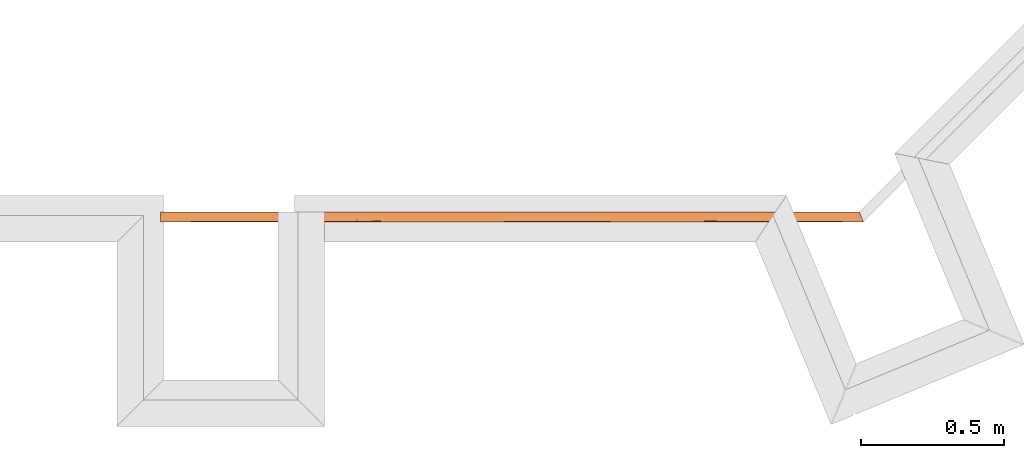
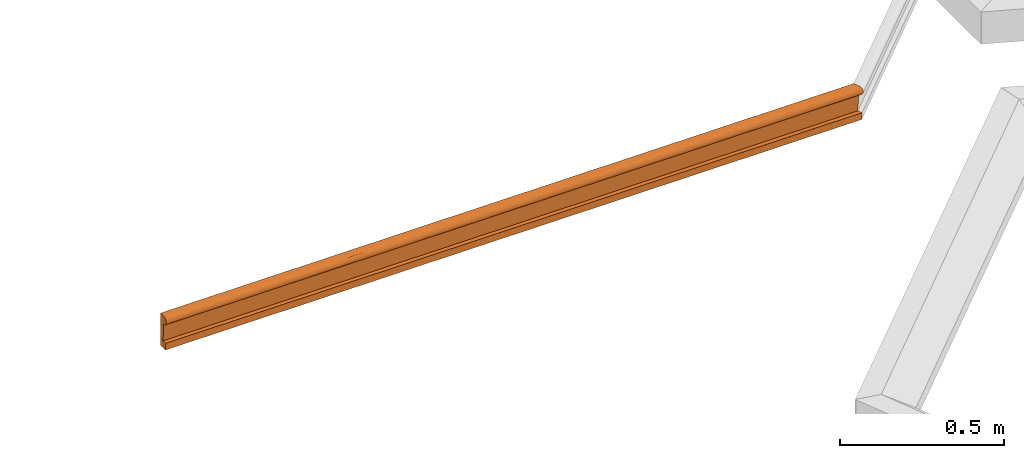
# One storey, part 6 of 9: 1 proxy.
"""IFC2X3 building model written with IfcOpenShell, lengths in metres."""

from ifc_helpers import new_model, entity, si_unit, converted_unit, derived_unit, direction, frame, origin, place, context, subcontext, project, spatial, faceted_brep, type_object, element, save


model = new_model("IFC2X3")

# Units and contexts
model_context = context("Model", 3, precision=1e-05, world=origin(), true_north=direction((6.12303176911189e-17, 1.0)))
plan_context = context("Plan", 3, precision=1e-05, world=origin(), true_north=direction((6.12303176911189e-17, 1.0)))
body_context = subcontext(model_context, "Body", "Model", "MODEL_VIEW")
ifc_project = project(units=[si_unit("LENGTHUNIT", "METRE"), si_unit("AREAUNIT", "SQUARE_METRE"), si_unit("VOLUMEUNIT", "CUBIC_METRE"), converted_unit("PLANEANGLEUNIT", "DEGREE", entity("IfcRatioMeasure", 0.0174532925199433), si_unit("PLANEANGLEUNIT", "RADIAN"), dimensions=[0, 0, 0, 0, 0, 0, 0]), si_unit("MASSUNIT", "GRAM", prefix="KILO"), derived_unit("MASSDENSITYUNIT", [(si_unit("MASSUNIT", "GRAM", prefix="KILO"), 1), (si_unit("LENGTHUNIT", "METRE"), -3)]), derived_unit("MOMENTOFINERTIAUNIT", [(si_unit("LENGTHUNIT", "METRE"), 4)]), si_unit("TIMEUNIT", "SECOND"), si_unit("FREQUENCYUNIT", "HERTZ"), si_unit("THERMODYNAMICTEMPERATUREUNIT", "DEGREE_CELSIUS"), derived_unit("THERMALTRANSMITTANCEUNIT", [(si_unit("MASSUNIT", "GRAM", prefix="KILO"), 1), (si_unit("THERMODYNAMICTEMPERATUREUNIT", "KELVIN"), -1), (si_unit("TIMEUNIT", "SECOND"), -3)]), derived_unit("VOLUMETRICFLOWRATEUNIT", [(si_unit("LENGTHUNIT", "METRE"), 3), (si_unit("TIMEUNIT", "SECOND"), -1)]), derived_unit("MASSFLOWRATEUNIT", [(si_unit("MASSUNIT", "GRAM", prefix="KILO"), 1), (si_unit("TIMEUNIT", "SECOND"), -1)]), derived_unit("ROTATIONALFREQUENCYUNIT", [(si_unit("TIMEUNIT", "SECOND"), -1)]), si_unit("ELECTRICCURRENTUNIT", "AMPERE"), si_unit("ELECTRICVOLTAGEUNIT", "VOLT"), si_unit("POWERUNIT", "WATT"), si_unit("FORCEUNIT", "NEWTON", prefix="KILO"), si_unit("ILLUMINANCEUNIT", "LUX"), si_unit("LUMINOUSFLUXUNIT", "LUMEN"), si_unit("LUMINOUSINTENSITYUNIT", "CANDELA"), derived_unit("USERDEFINED", [(si_unit("MASSUNIT", "GRAM", prefix="KILO"), -1), (si_unit("LENGTHUNIT", "METRE"), -2), (si_unit("TIMEUNIT", "SECOND"), 3), (si_unit("LUMINOUSFLUXUNIT", "LUMEN"), 1)]), derived_unit("SOUNDPOWERUNIT", [(si_unit("MASSUNIT", "GRAM", prefix="KILO"), 1), (si_unit("LENGTHUNIT", "METRE"), 2), (si_unit("TIMEUNIT", "SECOND"), -3)]), derived_unit("SOUNDPRESSUREUNIT", [(si_unit("MASSUNIT", "GRAM", prefix="KILO"), 1), (si_unit("LENGTHUNIT", "METRE"), -1), (si_unit("TIMEUNIT", "SECOND"), -2)]), derived_unit("LINEARVELOCITYUNIT", [(si_unit("LENGTHUNIT", "METRE"), 1), (si_unit("TIMEUNIT", "SECOND"), -1)]), si_unit("PRESSUREUNIT", "PASCAL"), derived_unit("USERDEFINED", [(si_unit("LENGTHUNIT", "METRE"), -2), (si_unit("MASSUNIT", "GRAM", prefix="KILO"), 1), (si_unit("TIMEUNIT", "SECOND"), -2)]), derived_unit("LINEARFORCEUNIT", [(si_unit("MASSUNIT", "GRAM", prefix="KILO"), 1), (si_unit("LENGTHUNIT", "METRE"), 1), (si_unit("TIMEUNIT", "SECOND"), -2), (si_unit("LENGTHUNIT", "METRE"), -1)]), derived_unit("PLANARFORCEUNIT", [(si_unit("MASSUNIT", "GRAM", prefix="KILO"), 1), (si_unit("LENGTHUNIT", "METRE"), 1), (si_unit("TIMEUNIT", "SECOND"), -2), (si_unit("LENGTHUNIT", "METRE"), -2)])], contexts=[model_context, plan_context])

# Site, building, storey
site_placement = place(None, frame((-11.0823275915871, 23.8300534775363, 0.0)))
site = spatial("IfcSite", under=ifc_project, at=site_placement, Name="Default", CompositionType="ELEMENT")
building_placement = place(site_placement, origin())
building = spatial("IfcBuilding", under=site, at=building_placement, Name="Englische Kirche", CompositionType="ELEMENT")
storey_placement = place(building_placement, frame((0.0, 0.0, -3.07499999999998)))
storey = spatial("IfcBuildingStorey", under=building, at=storey_placement, Name="Ebene -1 Basement Phase 6", CompositionType="ELEMENT", Elevation=-3.07499999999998)

# Proxy
building_element_proxy_type = type_object("IfcBuildingElementProxyType", Name="Profilierte Wand:moulding1-Dado brick Stage 2", PredefinedType="NOTDEFINED")
proxy_placement = place(storey_placement, frame((22.6756291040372, 9.91654569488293, 4.32499999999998)))
element("IfcBuildingElementProxy", 1, at=proxy_placement, inside=storey, type_object=building_element_proxy_type, Name="Profilierte Wand:moulding1-Dado brick Stage 2", ObjectType="Profilierte Wand:moulding1-Dado brick Stage 2", context=body_context, shape_type="Brep", body=[
    faceted_brep([(0.0, 0.00272117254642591, 0.0991462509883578), (0.0, 0.00171034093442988, 0.102692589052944), (0.0, 0.0015952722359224, 0.106378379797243), (0.0, 0.00238292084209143, 0.109980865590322), (0.0, 0.00402568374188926, 0.113282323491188), (0.0, 0.00642427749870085, 0.11608322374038), (0.0, 0.00943373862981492, 0.11821428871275), (0.0, 0.0128721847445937, 0.119546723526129), (0.0, 0.0165318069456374, 0.12), (0.0, 0.0365318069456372, 0.12), (0.0, 0.0365318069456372, 0.0), (0.0, 0.0065318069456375, 0.0), (0.0, 0.0065318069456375, 0.0249999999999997), (0.0, 0.0215318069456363, 0.0249999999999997), (0.0, 0.0174674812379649, 0.0900292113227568), (0.0, 0.0137867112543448, 0.0902533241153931), (0.0, 0.010271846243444, 0.0913686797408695), (0.0, 0.00713531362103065, 0.0933078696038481), (0.0, 0.00456667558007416, 0.0959536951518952), (2.45761961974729, 0.00272117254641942, 0.0991462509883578), (2.45685518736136, 0.00456667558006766, 0.0959536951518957), (2.45579122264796, 0.00713531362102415, 0.0933078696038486), (2.45449202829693, 0.0102718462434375, 0.0913686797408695), (2.45303612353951, 0.0137867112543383, 0.0902533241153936), (2.45151149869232, 0.0174674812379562, 0.0900292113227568), (2.44982799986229, 0.0215318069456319, 0.0250000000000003), (2.45604120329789, 0.006531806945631, 0.0250000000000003), (2.45604120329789, 0.006531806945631, 0.0), (2.4436147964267, 0.0365318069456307, 0.0), (2.4436147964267, 0.0365318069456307, 0.12), (2.45189906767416, 0.0165318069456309, 0.12), (2.453414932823, 0.0128721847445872, 0.119546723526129), (2.45483918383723, 0.00943373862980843, 0.11821428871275), (2.45608574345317, 0.00642427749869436, 0.11608322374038), (2.45707927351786, 0.00402568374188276, 0.113282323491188), (2.45775972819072, 0.00238292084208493, 0.109980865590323), (2.45808598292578, 0.0015952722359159, 0.106378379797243), (2.45803831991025, 0.00171034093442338, 0.102692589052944), (2.18104567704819, 0.0174674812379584, 0.0900292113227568), (1.91057985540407, 0.0174674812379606, 0.0900292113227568), (1.70340151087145, 0.0174674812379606, 0.0900292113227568), (1.49622316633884, 0.0174674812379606, 0.0900292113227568), (1.28904482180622, 0.0174674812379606, 0.0900292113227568), (1.0818654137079, 0.0174674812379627, 0.0900292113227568), (0.811399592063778, 0.0174674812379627, 0.0900292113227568), (0.540932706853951, 0.0174674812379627, 0.0900292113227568), (0.270465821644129, 0.0174674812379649, 0.0900292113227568), (0.135233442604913, 0.0174674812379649, 0.0900292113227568), (2.22761726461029, 0.00575310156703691, 0.0945683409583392), (2.22793000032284, 0.00153907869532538, 0.1045329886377), (2.28041271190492, 0.00210440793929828, 0.10089510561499), (0.234491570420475, 0.00187797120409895, 0.108203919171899), (0.499225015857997, 0.00192981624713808, 0.108432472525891), (0.396162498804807, 0.00310246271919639, 0.11168226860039), (1.40548483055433, 0.00167870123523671, 0.102905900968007), (1.25979009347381, 0.00276921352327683, 0.0990341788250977), (1.47893047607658, 0.0027787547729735, 0.099012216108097), (2.28756529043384, 0.00353920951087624, 0.0975038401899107), (2.28157856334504, 0.0146971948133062, 0.0901126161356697), (2.18359478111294, 0.0119588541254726, 0.0907140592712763), (0.755333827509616, 0.014026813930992, 0.0902106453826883), (0.175935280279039, 0.00864376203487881, 0.0922415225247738), (0.22180918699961, 0.0057693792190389, 0.0945515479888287), (2.33551744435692, 0.00309891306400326, 0.111675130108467), (0.636571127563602, 0.0018572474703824, 0.101892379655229), (0.466749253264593, 0.00196316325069, 0.101428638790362), (0.579969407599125, 0.00278923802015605, 0.0989881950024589), (2.28246382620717, 0.00512777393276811, 0.114744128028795), (0.177267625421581, 0.00786327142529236, 0.117241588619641), (2.07477324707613, 0.00353140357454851, 0.0975173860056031), (2.10281928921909, 0.00184634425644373, 0.101944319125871), (1.86810532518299, 0.00226256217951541, 0.100375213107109), (0.57458418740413, 0.0128561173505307, 0.0904573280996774), (0.568541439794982, 0.00882815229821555, 0.0921293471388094), (0.34157508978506, 0.0119948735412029, 0.0907025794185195), (1.25618577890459, 0.00542921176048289, 0.115086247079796), (1.28914042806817, 0.00863801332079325, 0.117754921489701), (1.11105147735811, 0.00850749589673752, 0.117673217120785), (0.156711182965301, 0.0119948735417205, 0.090702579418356), (0.202849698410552, 0.0147776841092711, 0.090102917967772), (0.38013285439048, 0.00786327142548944, 0.117241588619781), (0.228012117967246, 0.0111118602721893, 0.118986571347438), (0.175935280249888, 0.00354544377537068, 0.0974930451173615), (0.1293266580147, 0.00210636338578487, 0.100888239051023), (0.228012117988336, 0.00513858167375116, 0.1147567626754), (1.81283111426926, 0.0102971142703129, 0.0913571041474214), (1.79671164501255, 0.00633234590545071, 0.0940013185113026), (1.63938221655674, 0.00893594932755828, 0.0920654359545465), (2.24176879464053, 0.00784238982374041, 0.117226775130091), (2.10288660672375, 0.00168479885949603, 0.107136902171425), (1.97777589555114, 0.00153904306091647, 0.104534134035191), (2.2805090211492, 0.00187678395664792, 0.108198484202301), (1.89588969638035, 0.0119409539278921, 0.119280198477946), (2.11037807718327, 0.0110680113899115, 0.118969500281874), (2.08412401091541, 0.0140262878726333, 0.119789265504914), (2.29623990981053, 0.0110917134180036, 0.118978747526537), (1.79020274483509, 0.0015751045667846, 0.103861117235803), (1.78040160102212, 0.00170867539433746, 0.10729668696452), (1.62218079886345, 0.00154264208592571, 0.105570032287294), (1.35391173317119, 0.012760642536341, 0.119518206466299), (1.15295996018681, 0.0114348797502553, 0.119107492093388), (0.50387073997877, 0.00519676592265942, 0.114824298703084), (0.622084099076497, 0.00315320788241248, 0.111783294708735), (2.24904936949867, 0.0138378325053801, 0.119756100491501), (1.91096367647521, 0.0165318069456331, 0.12), (1.70368345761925, 0.0165318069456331, 0.12), (1.76205573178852, 0.0136643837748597, 0.119723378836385), (1.97458803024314, 0.00859278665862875, 0.0922731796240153), (1.9396472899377, 0.0128478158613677, 0.0904594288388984), (1.05655877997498, 0.00262172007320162, 0.0993866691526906), (1.14240045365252, 0.0041097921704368, 0.0965920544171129), (0.177267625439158, 0.00310246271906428, 0.111682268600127), (1.25625141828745, 0.011234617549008, 0.0909664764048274), (1.46700838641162, 0.00994686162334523, 0.0915226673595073), (1.30424594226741, 0.00857570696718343, 0.0922838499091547), (0.896476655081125, 0.00354544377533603, 0.0974930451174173), (0.663221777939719, 0.00444011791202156, 0.096123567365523), (0.920751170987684, 0.00530395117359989, 0.0950533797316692), (0.178759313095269, 0.00153911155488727, 0.104531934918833), (0.80525074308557, 0.00174420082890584, 0.102484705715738), (0.919097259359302, 0.00156977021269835, 0.106066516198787), (0.735708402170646, 0.00154782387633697, 0.105693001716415), (2.31666521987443, 0.0165318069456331, 0.12), (0.353724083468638, 0.00154350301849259, 0.105592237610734), (1.63609237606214, 0.00613441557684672, 0.0941882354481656), (1.48043468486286, 0.0055764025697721, 0.0947540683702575), (1.51338927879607, 0.00764191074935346, 0.092918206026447), (2.2779286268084, 0.00862494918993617, 0.0922531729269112), (0.328896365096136, 0.0135621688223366, 0.119703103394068), (0.540929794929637, 0.0165318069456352, 0.12), (0.270467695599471, 0.0165318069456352, 0.12), (0.161618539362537, 0.0140094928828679, 0.11978641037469), (1.89538750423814, 0.00813841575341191, 0.11743185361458), (2.08000999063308, 0.00835299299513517, 0.117574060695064), (0.365918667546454, 0.0149711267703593, 0.0900814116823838), (0.343068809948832, 0.00763916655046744, 0.0929202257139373), (0.385907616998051, 0.00346762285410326, 0.0976293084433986), (0.29162777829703, 0.00210636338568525, 0.100888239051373), (1.9835056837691, 0.0033965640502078, 0.112243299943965), (1.95716088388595, 0.0051076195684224, 0.114720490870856), (1.82490482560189, 0.00371504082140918, 0.112792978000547), (2.12146703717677, 0.0146714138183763, 0.0901158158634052), (2.02601265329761, 0.00574321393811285, 0.0945785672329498), (2.12668730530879, 0.00759971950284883, 0.0929493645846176), (0.483855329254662, 0.0118462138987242, 0.119249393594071), (1.06662386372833, 0.00621632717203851, 0.0941100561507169), (1.05328237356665, 0.0105555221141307, 0.0912419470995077), (0.781217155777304, 0.00638117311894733, 0.0939562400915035), (0.61936304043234, 0.00639798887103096, 0.0939408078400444), (2.11946293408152, 0.00600308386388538, 0.115683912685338), (2.17906815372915, 0.00309436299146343, 0.111665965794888), (0.946631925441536, 0.0104403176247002, 0.118707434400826), (1.01145248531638, 0.0134392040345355, 0.11967773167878), (1.600053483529, 0.01321661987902, 0.119629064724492), (1.4940222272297, 0.0100045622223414, 0.118505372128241), (1.70369116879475, 0.0100653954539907, 0.118534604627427), (1.65710728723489, 0.00565899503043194, 0.115333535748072), (1.67895157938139, 0.00395356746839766, 0.11317238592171), (1.8074947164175, 0.00541032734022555, 0.115065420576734), (1.74052066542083, 0.00756933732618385, 0.117028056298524), (1.59477577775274, 0.00751148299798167, 0.116984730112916), (1.18545429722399, 0.0139366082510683, 0.0902262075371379), (0.997017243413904, 0.00169984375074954, 0.10276105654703), (1.12519746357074, 0.00153873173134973, 0.105455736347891), (0.6344463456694, 0.00833620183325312, 0.117563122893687), (0.725097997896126, 0.0121524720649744, 0.11934647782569), (1.00252562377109, 0.00639323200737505, 0.116054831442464), (1.10843823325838, 0.00355162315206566, 0.11251763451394), (1.89437757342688, 0.0023594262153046, 0.109913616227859), (2.05000461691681, 0.00232666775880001, 0.109818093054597), (0.464328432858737, 0.00576937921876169, 0.0945515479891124), (1.69020377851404, 0.00266324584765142, 0.110715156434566), (1.55468611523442, 0.00203369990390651, 0.108847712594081), (1.3993273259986, 0.00174554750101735, 0.107523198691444), (1.65160971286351, 0.00196555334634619, 0.10141890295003), (1.67993771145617, 0.00351695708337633, 0.0975425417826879), (0.910396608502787, 0.00376645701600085, 0.112876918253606), (0.783272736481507, 0.00207596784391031, 0.109003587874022), (0.984217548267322, 0.00229445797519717, 0.109722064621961), (0.528688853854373, 0.00153911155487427, 0.104531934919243), (0.750206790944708, 0.00280300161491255, 0.0989568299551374), (0.904611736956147, 0.00231482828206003, 0.100216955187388), (0.760994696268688, 0.00714635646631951, 0.116700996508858), (0.788723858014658, 0.00943927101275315, 0.118217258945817), (1.18130773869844, 0.0018153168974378, 0.102097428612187), (1.29942876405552, 0.00338700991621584, 0.11222594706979), (1.18672971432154, 0.00212184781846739, 0.109165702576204), (1.41962846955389, 0.00460302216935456, 0.114094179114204), (0.86981190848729, 0.0126783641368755, 0.119496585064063), (0.811391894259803, 0.0165318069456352, 0.12), (1.93146073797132, 0.00169950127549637, 0.107236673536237), (1.88043421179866, 0.00408389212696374, 0.0966304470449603), (2.18143137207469, 0.0165318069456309, 0.12), (1.4964088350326, 0.0165318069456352, 0.12), (1.45946764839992, 0.00671537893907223, 0.116341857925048), (1.48785076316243, 0.00307433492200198, 0.111625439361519), (1.28913421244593, 0.0165318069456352, 0.12), (1.08185958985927, 0.0165318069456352, 0.12), (0.754067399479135, 0.00513858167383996, 0.114756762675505), (0.775629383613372, 0.0105915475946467, 0.0912263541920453), (0.975928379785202, 0.014069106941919, 0.0902035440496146), (0.927978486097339, 0.00770532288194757, 0.092871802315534), (1.25274378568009, 0.00592442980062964, 0.0943941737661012), (1.65256498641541, 0.0135224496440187, 0.0903049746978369), (1.80779733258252, 0.0148821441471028, 0.0900909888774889), (1.39263277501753, 0.0128989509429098, 0.0904465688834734), (0.646003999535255, 0.00181976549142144, 0.107925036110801), (0.764169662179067, 0.00353195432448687, 0.112483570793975), (1.27295931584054, 0.00154102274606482, 0.104474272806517), (1.2977915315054, 0.00413829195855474, 0.0965501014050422)], [[[0, 1, 2, 3, 4, 5, 6, 7, 8, 9, 10, 11, 12, 13, 14, 15, 16, 17, 18]], [[19, 20, 21, 22, 23, 24, 25, 26, 27, 28, 29, 30, 31, 32, 33, 34, 35, 36, 37]], [[10, 9, 29, 28]], [[11, 10, 28, 27]], [[12, 11, 27, 26]], [[13, 12, 26, 25]], [[14, 13, 25, 24, 38, 39, 40, 41, 42, 43, 44, 45, 46, 47]], [[21, 20, 48]], [[37, 49, 50]], [[51, 52, 53]], [[54, 55, 56]], [[57, 20, 19]], [[24, 23, 58]], [[59, 23, 22]], [[45, 44, 60]], [[37, 36, 49]], [[17, 61, 62]], [[51, 3, 2]], [[34, 63, 35]], [[50, 57, 19]], [[64, 65, 66]], [[34, 33, 67]], [[5, 68, 6]], [[69, 70, 71]], [[72, 73, 74]], [[75, 76, 77]], [[78, 79, 74]], [[78, 16, 15]], [[68, 80, 81]], [[0, 18, 82]], [[1, 0, 83]], [[68, 5, 84]], [[85, 86, 87]], [[67, 33, 88]], [[89, 90, 49]], [[36, 91, 49]], [[15, 14, 47]], [[92, 93, 94]], [[32, 95, 88]], [[96, 97, 98]], [[99, 100, 76]], [[101, 53, 102]], [[95, 103, 93]], [[104, 105, 106]], [[59, 107, 108]], [[109, 110, 55]], [[84, 111, 53]], [[81, 7, 6]], [[112, 113, 114]], [[115, 116, 117]], [[51, 2, 118]], [[31, 95, 32]], [[119, 120, 121]], [[111, 84, 4]], [[31, 30, 122]], [[84, 5, 4]], [[19, 37, 50]], [[18, 17, 62]], [[51, 118, 123]], [[124, 125, 126]], [[22, 21, 127]], [[128, 129, 130]], [[8, 7, 131]], [[92, 132, 133]], [[32, 88, 33]], [[134, 72, 74]], [[62, 61, 135]], [[82, 18, 62]], [[82, 136, 137]], [[138, 139, 140]], [[49, 91, 89]], [[48, 127, 21]], [[141, 38, 58]], [[128, 130, 131]], [[58, 23, 59]], [[2, 1, 118]], [[51, 123, 52]], [[36, 35, 91]], [[49, 70, 50]], [[69, 142, 48]], [[143, 59, 127]], [[4, 3, 111]], [[101, 84, 53]], [[81, 80, 144]], [[131, 7, 81]], [[145, 146, 114]], [[147, 116, 148]], [[17, 16, 61]], [[65, 136, 66]], [[88, 133, 149]], [[93, 103, 94]], [[149, 150, 67]], [[151, 100, 152]], [[74, 79, 134]], [[153, 154, 155]], [[156, 157, 158]], [[92, 106, 155]], [[159, 160, 156]], [[161, 43, 42]], [[162, 163, 120]], [[164, 80, 101]], [[165, 129, 144]], [[144, 80, 164]], [[164, 165, 144]], [[75, 166, 167]], [[83, 118, 1]], [[137, 65, 123]], [[63, 91, 35]], [[168, 169, 138]], [[70, 49, 90]], [[57, 69, 48]], [[143, 127, 48]], [[59, 22, 127]], [[80, 68, 84]], [[81, 6, 68]], [[3, 51, 111]], [[53, 111, 51]], [[78, 61, 16]], [[74, 73, 135]], [[136, 62, 170]], [[83, 82, 137]], [[140, 157, 171]], [[172, 97, 171]], [[173, 54, 98]], [[71, 174, 175]], [[176, 177, 178]], [[179, 65, 64]], [[149, 67, 88]], [[63, 67, 150]], [[147, 117, 116]], [[180, 115, 181]], [[182, 166, 183]], [[165, 164, 183]], [[69, 57, 50]], [[48, 20, 57]], [[109, 184, 162]], [[102, 53, 52]], [[163, 178, 120]], [[185, 186, 173]], [[178, 163, 186]], [[75, 185, 187]], [[122, 103, 31]], [[88, 95, 93]], [[152, 188, 151]], [[129, 165, 189]], [[47, 79, 15]], [[61, 78, 74]], [[62, 136, 82]], [[116, 136, 170]], [[169, 91, 150]], [[89, 169, 190]], [[71, 70, 90]], [[69, 50, 70]], [[174, 96, 98]], [[71, 175, 191]], [[103, 122, 192]], [[103, 192, 94]], [[31, 103, 95]], [[192, 104, 94]], [[105, 153, 106]], [[104, 92, 94]], [[132, 92, 155]], [[159, 132, 155]], [[153, 105, 193]], [[149, 133, 139]], [[194, 156, 160]], [[171, 157, 195]], [[99, 153, 193]], [[153, 99, 154]], [[100, 196, 197]], [[197, 152, 100]], [[99, 76, 154]], [[154, 76, 194]], [[75, 194, 76]], [[156, 194, 187]], [[76, 100, 77]], [[185, 75, 167]], [[166, 151, 183]], [[176, 166, 198]], [[79, 47, 46]], [[79, 46, 134]], [[15, 79, 78]], [[46, 45, 134]], [[72, 199, 73]], [[134, 45, 72]], [[60, 199, 72]], [[147, 73, 199]], [[200, 43, 161]], [[170, 62, 135]], [[145, 117, 201]], [[180, 116, 115]], [[201, 199, 146]], [[125, 175, 56]], [[145, 202, 110]], [[56, 175, 174]], [[199, 60, 200]], [[203, 204, 85]], [[161, 42, 205]], [[87, 113, 203]], [[41, 205, 42]], [[112, 146, 161]], [[205, 41, 203]], [[107, 142, 86]], [[112, 161, 205]], [[200, 161, 146]], [[204, 40, 39]], [[38, 141, 39]], [[199, 200, 146]], [[44, 43, 200]], [[137, 123, 118]], [[123, 179, 52]], [[206, 179, 121]], [[52, 206, 102]], [[207, 177, 176]], [[101, 80, 84]], [[102, 198, 101]], [[164, 101, 198]], [[96, 71, 90]], [[174, 98, 54]], [[171, 195, 172]], [[54, 208, 184]], [[54, 56, 174]], [[209, 110, 202]], [[209, 56, 55]], [[114, 113, 126]], [[173, 195, 185]], [[184, 208, 163]], [[74, 135, 61]], [[73, 170, 135]], [[88, 93, 133]], [[149, 139, 138]], [[92, 133, 93]], [[139, 133, 132]], [[85, 108, 107]], [[39, 108, 204]], [[99, 196, 100]], [[77, 151, 166]], [[185, 167, 186]], [[187, 185, 195]], [[178, 186, 167]], [[186, 163, 208]], [[176, 178, 167]], [[178, 177, 120]], [[121, 120, 177]], [[162, 120, 119]], [[166, 176, 167]], [[176, 198, 207]], [[109, 181, 115]], [[184, 163, 162]], [[119, 181, 162]], [[54, 184, 55]], [[115, 117, 110]], [[55, 184, 109]], [[115, 110, 109]], [[145, 114, 202]], [[114, 125, 202]], [[110, 209, 55]], [[187, 195, 157]], [[75, 187, 194]], [[206, 121, 177]], [[64, 121, 179]], [[71, 96, 174]], [[97, 190, 168]], [[190, 96, 90]], [[171, 97, 168]], [[171, 168, 140]], [[195, 173, 172]], [[138, 140, 168]], [[140, 139, 158]], [[168, 190, 169]], [[149, 138, 150]], [[91, 169, 89]], [[150, 138, 169]], [[99, 193, 196]], [[197, 189, 152]], [[188, 189, 165]], [[151, 77, 100]], [[75, 77, 166]], [[54, 173, 208]], [[186, 208, 173]], [[82, 83, 0]], [[118, 83, 137]], [[202, 125, 209]], [[56, 209, 125]], [[96, 190, 97]], [[89, 190, 90]], [[139, 132, 158]], [[159, 158, 132]], [[173, 98, 172]], [[97, 172, 98]], [[189, 188, 152]], [[183, 188, 165]], [[142, 191, 86]], [[143, 142, 107]], [[191, 142, 69]], [[124, 175, 125]], [[71, 191, 69]], [[175, 86, 191]], [[142, 143, 48]], [[59, 143, 107]], [[162, 181, 109]], [[119, 64, 180]], [[119, 180, 181]], [[180, 66, 116]], [[136, 116, 66]], [[148, 116, 170]], [[170, 73, 148]], [[73, 147, 148]], [[45, 60, 72]], [[200, 60, 44]], [[102, 206, 177]], [[179, 206, 52]], [[158, 157, 140]], [[157, 156, 187]], [[67, 63, 34]], [[91, 63, 150]], [[155, 106, 153]], [[104, 106, 92]], [[141, 58, 59]], [[24, 58, 38]], [[59, 108, 141]], [[39, 141, 108]], [[128, 131, 81]], [[8, 131, 130]], [[81, 144, 128]], [[129, 128, 144]], [[123, 65, 179]], [[136, 65, 137]], [[180, 64, 66]], [[64, 119, 121]], [[183, 164, 182]], [[188, 183, 151]], [[164, 198, 182]], [[166, 182, 198]], [[155, 154, 160]], [[158, 159, 156]], [[155, 160, 159]], [[154, 194, 160]], [[201, 117, 147]], [[110, 117, 145]], [[199, 201, 147]], [[146, 145, 201]], [[203, 113, 205]], [[126, 113, 87]], [[124, 87, 86]], [[114, 126, 125]], [[87, 124, 126]], [[175, 124, 86]], [[113, 112, 205]], [[146, 112, 114]], [[203, 41, 40]], [[86, 85, 107]], [[203, 85, 87]], [[198, 102, 207]], [[177, 207, 102]], [[85, 204, 108]], [[40, 204, 203]], [[9, 8, 130, 129, 189, 197, 196, 193, 105, 104, 192, 122, 30, 29]]]),
])

save(model, "model.ifc")
